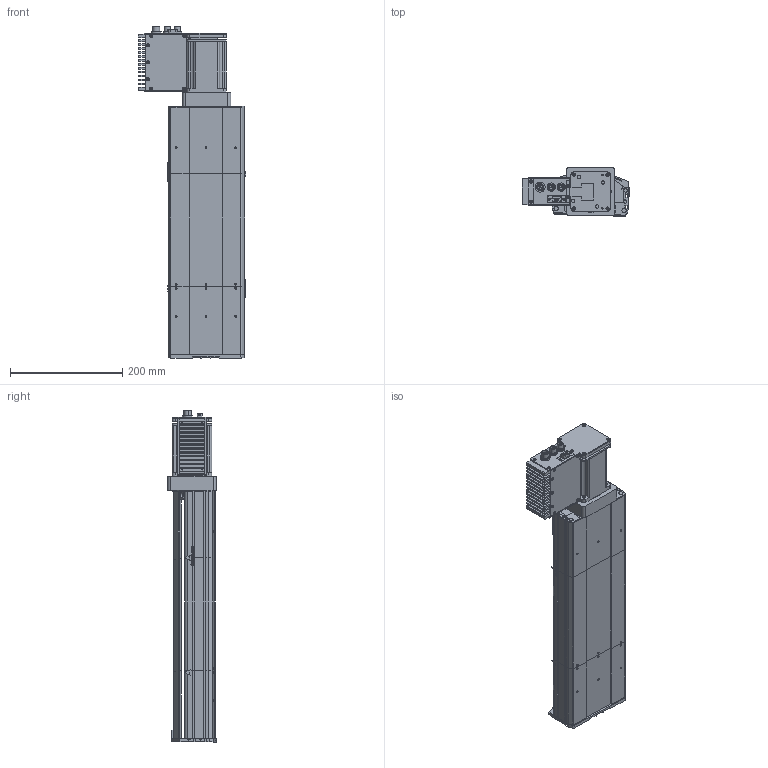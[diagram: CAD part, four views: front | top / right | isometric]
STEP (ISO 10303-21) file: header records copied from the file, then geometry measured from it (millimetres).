
FILE_DESCRIPTION (( 'STEP AP203' ), '1' );
FILE_NAME ('D14 TSH M4 MD L10 S200.STEP', '2012-10-08T07:47:24', ( '' ), ( '' ), 'SwSTEP 2.0', 'SolidWorks 2010', '' );
FILE_SCHEMA (( 'CONFIG_CONTROL_DESIGN' ));
Length unit declared in the file: millimetre
Products named in the file (23): corpl tail D14_Default_2; Plaque racord D10.2_Default_2; T犨e fond_2; Tôle Arrière_2; Connecteur rond D10 3cts_2; Colonnette_2; Radiateur_2; D14 TSH M4 MD L10 S200; corp head D14_Default_2; plaque de  bout head D14 MD_Default_2; couvercle D14 course L200; couvercle D14_Default_2; Moteur_2; T犨e contre le moteur_2; Sub D 9cts_2; Couvercle_2; Tôle latérale_2; Connecteur rond D12 4cts_2; Moteur 70BLDC90A_2; Vis TF 3 torkx_2; couvercle D14 head_Default_2; plaque de  bout tail D14_Default_2; Pièce200
Assembly tree (49 placements, depth 3):
  D14 TSH M4 MD L10 S200
    plaque de  bout tail D14_Default_2
    corpl tail D14_Default_2
    Moteur_2
      Vis TF 3 torkx_2  x26
      T犨e fond_2
      Radiateur_2
      T犨e contre le moteur_2
      Connecteur rond D10 3cts_2  x2
      Couvercle_2
      Tôle latérale_2  x2
      Colonnette_2
      Sub D 9cts_2
      Tôle Arrière_2
      Connecteur rond D12 4cts_2
      Moteur 70BLDC90A_2
    couvercle D14 head_Default_2
    couvercle D14 course L200
    couvercle D14_Default_2
    Plaque racord D10.2_Default_2
    Pièce200
    corp head D14_Default_2
    plaque de  bout head D14 MD_Default_2
Bounding box: 191.77 x 86.05 x 590.8 mm (x, y, z)
Volume: 1963572.8 mm3; surface area: 681752.4 mm2
Topology: 70 solids, 70 shells, 2390 faces, 6227 edges, 4106 vertices
Faces by surface type: plane 1274, cylinder 852, cone 134, bspline 130
Entity records: 64607 total; most frequent: CARTESIAN_POINT 20805, ORIENTED_EDGE 8508, DIRECTION 8190, EDGE_CURVE 4254, VERTEX_POINT 2812, VECTOR 2804, LINE 2804, AXIS2_PLACEMENT_3D 2693
